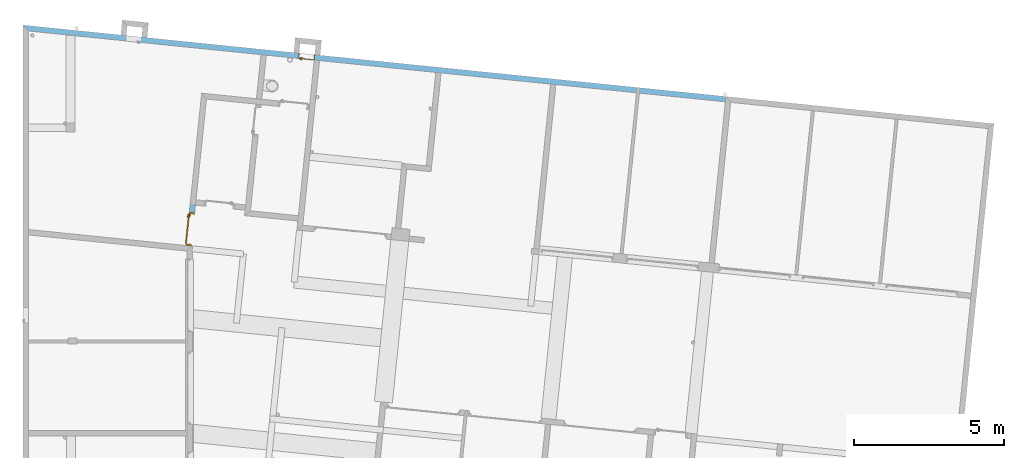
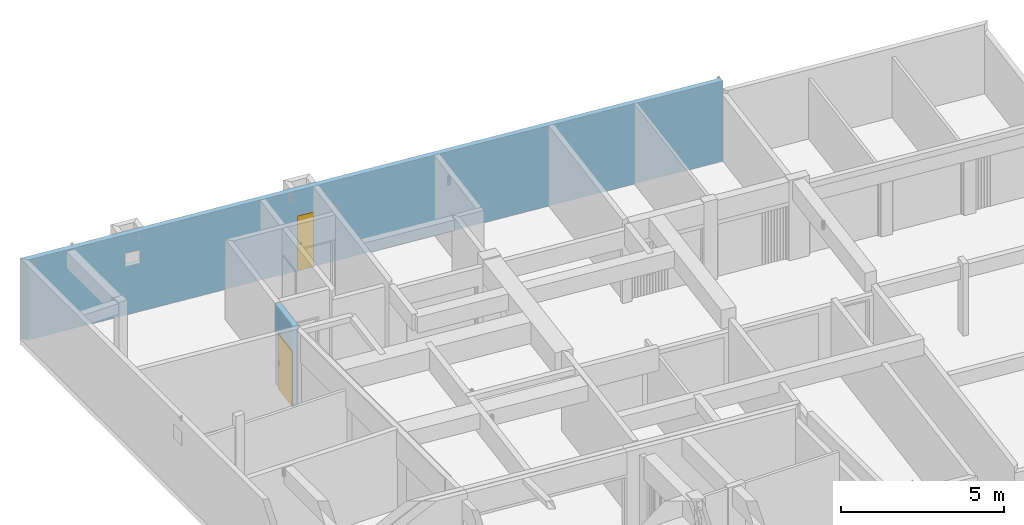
# One storey, part 34 of 41: 2 doors, 3 openings, plus 2 elements that do not belong to this part.
"""IFC2X3 building model written with IfcOpenShell, lengths in millimetres."""

from ifc_helpers import new_model, entity, si_unit, converted_unit, derived_unit, money_unit, direction, frame, origin_with_axes, origin_2d_with_axis, place, context, subcontext, project, spatial, polyline, rectangle, outline, extrude, faceted_brep, material, layer, layer_set, layer_usage, type_object, element, fill, save


model = new_model("IFC2X3")

# Units and contexts
model_context = context("Model", 3, precision=0.01, world=origin_with_axes(), true_north=direction((0.0, 1.0)))
body_context = subcontext(model_context, "Body", "Model", "MODEL_VIEW")
ifc_project = project(units=[si_unit("LENGTHUNIT", "METRE", prefix="MILLI"), si_unit("AREAUNIT", "SQUARE_METRE"), si_unit("VOLUMEUNIT", "CUBIC_METRE"), converted_unit("PLANEANGLEUNIT", "DEGREE", entity("IfcPlaneAngleMeasure", 0.0174532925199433), si_unit("PLANEANGLEUNIT", "RADIAN"), dimensions=[0, 0, 0, 0, 0, 0, 0]), money_unit("USD"), converted_unit("TIMEUNIT", "Year", entity("IfcTimeMeasure", 31557600.0), si_unit("TIMEUNIT", "SECOND"), dimensions=[0, 0, 1, 0, 0, 0, 0]), si_unit("MASSUNIT", "GRAM", prefix="KILO"), si_unit("THERMODYNAMICTEMPERATUREUNIT", "DEGREE_CELSIUS"), si_unit("LUMINOUSINTENSITYUNIT", "LUMEN"), si_unit("ENERGYUNIT", "JOULE", prefix="MEGA"), derived_unit("THERMALCONDUCTANCEUNIT", [(si_unit("POWERUNIT", "WATT"), 1), (si_unit("LENGTHUNIT", "METRE"), -1), (si_unit("THERMODYNAMICTEMPERATUREUNIT", "KELVIN"), -1)]), derived_unit("SPECIFICHEATCAPACITYUNIT", [(si_unit("ENERGYUNIT", "JOULE"), 1), (si_unit("MASSUNIT", "GRAM", prefix="KILO"), -1), (si_unit("THERMODYNAMICTEMPERATUREUNIT", "KELVIN"), -1)]), derived_unit("MASSDENSITYUNIT", [(si_unit("MASSUNIT", "GRAM", prefix="KILO"), 1), (si_unit("VOLUMEUNIT", "CUBIC_METRE"), -1)])], contexts=[model_context])

# Site, building, storey
site_placement = place(None, origin_with_axes())
site = spatial("IfcSite", under=ifc_project, at=site_placement, Name="Site", CompositionType="ELEMENT")
building_placement = place(site_placement, origin_with_axes())
building = spatial("IfcBuilding", under=site, at=building_placement, Name="Bâtiment", CompositionType="ELEMENT")
storey_placement = place(building_placement, origin_with_axes())
storey = spatial("IfcBuildingStorey", under=building, at=storey_placement, Name="sousol", CompositionType="ELEMENT", Elevation=0.0)

# Wall, opening, door
ifc_material = material(Name="Parpaing 314940890")
ifc_layer = layer(ifc_material, 180.0, ventilated="UNKNOWN")
ifc_layer_set = layer_set([ifc_layer], Name="Beton  18 0170347028")
ifc_layer_usage_1 = layer_usage(ifc_layer_set, "AXIS2", "NEGATIVE", 0.0)
wall_type = type_object("IfcWallType", Name="Beton  18 0170347028 180", PredefinedType="NOTDEFINED")
wall_1_placement = place(storey_placement, frame((2222367.43851721, -609832.9632712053, 0.0), z_axis=(0.0, 0.0, 1.0), x_axis=(-0.1011723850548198, -0.9948689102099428, 0.0)))
wall_1 = element("IfcWallStandardCase", 1, at=wall_1_placement, inside=storey, type_object=wall_type, material=ifc_layer_usage_1, Name="Mur-133", context=body_context, shape_type="SweptSolid", body=[
    extrude(outline(polyline([(-0.2228051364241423, -180.0000000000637), (1365.680942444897, -180.0000000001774), (1365.668428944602, 0.0), (0.0, 0.0), (-0.2228051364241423, -180.0000000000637)])), origin_with_axes(), (0.0, 0.0, 1.0), 3000.0),
])
opening_1_placement = place(wall_1_placement, frame((806.7165681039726, -3.410605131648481e-10, 0.0), z_axis=(0.0, 0.0, 1.0), x_axis=(1.0, 0.0, 0.0)))
opening_1 = element("IfcOpeningElement", 2, at=opening_1_placement, cuts=wall_1, Name="Por-295", context=body_context, shape_type="SweptSolid", body=[
    extrude(rectangle(XDim=1109.999992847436, YDim=2080.0, at=origin_2d_with_axis()), frame((-3.576268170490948e-06, 179.99999999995, 1040.0), z_axis=(0.0, 1.0, 0.0), x_axis=(1.0, 0.0, 0.0)), (0.0, 0.0, -1.0), 360.0),
])
door_style = type_object("IfcDoorStyle", Name="Porte_1v", ConstructionType="NOTDEFINED", OperationType="NOTDEFINED", ParameterTakesPrecedence=False, Sizeable=False)
door_1_placement = place(opening_1_placement, frame((514.9999999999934, -1.13686837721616e-10, 0.0), z_axis=(0.0, 0.0, 1.0), x_axis=(-1.0, 0.0, 0.0)))
door_1 = element("IfcDoor", 3, at=door_1_placement, inside=storey, type_object=door_style, Name="Por-295", OverallHeight=2040.0, OverallWidth=1030.0, context=body_context, shape_type="Brep", body=[
    faceted_brep([(-40.00000000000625, 180.0000000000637, 0.0), (-40.00000000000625, 180.0000000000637, 2080.0), (1070.000000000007, 179.99999999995, 2080.0), (1070.000000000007, 179.99999999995, 0.0), (1030.000000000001, 180.0000000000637, 0.0), (1030.000000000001, 180.0000000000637, 2040.0), (0.0, 179.99999999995, 2040.0), (0.0, 179.99999999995, 0.0), (-39.99999999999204, 0.0, 0.0), (-39.99999999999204, 0.0, 2080.0), (1069.999999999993, 0.0, 2080.0), (1069.999999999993, 0.0, 0.0), (1015.000000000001, 0.0, 0.0), (1015.000000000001, 164.9999999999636, 0.0), (1029.999999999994, 165.0000000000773, 0.0), (1029.999999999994, 165.0000000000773, 2040.0), (0.0, 164.9999999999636, 2040.0), (0.0, 164.9999999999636, 0.0), (14.99999999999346, 165.0000000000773, 0.0), (15.00000000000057, 0.0, 0.0), (15.00000000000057, 0.0, 2025.0), (1015.000000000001, 0.0, 2025.0), (1015.000000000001, 164.9999999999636, 2025.0), (14.99999999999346, 165.0000000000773, 2025.0)], [[[0, 1, 2, 3, 4, 5, 6, 7]], [[8, 9, 1, 0]], [[9, 10, 2, 1]], [[10, 11, 3, 2]], [[3, 11, 12, 13, 14, 4]], [[5, 4, 14, 15]], [[6, 5, 15, 16]], [[7, 6, 16, 17]], [[0, 7, 17, 18, 19, 8]], [[19, 20, 21, 12, 11, 10, 9, 8]], [[22, 13, 12, 21]], [[17, 16, 15, 14, 13, 22, 23, 18]], [[18, 23, 20, 19]], [[23, 22, 21, 20]]]),
    faceted_brep([(964.9999999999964, 164.9999999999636, 900.0), (964.9999999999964, 164.9999999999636, 1100.0), (1005.00000000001, 164.9999999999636, 1100.0), (1005.00000000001, 164.9999999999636, 900.0), (965.0000000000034, 155.0000000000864, 900.0), (965.0000000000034, 155.0000000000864, 1100.0), (1005.000000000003, 155.0000000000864, 1100.0), (1005.000000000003, 155.0000000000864, 900.0)], [[[0, 1, 2, 3]], [[0, 4, 5, 1]], [[1, 5, 6, 2]], [[2, 6, 7, 3]], [[3, 7, 4, 0]], [[7, 6, 5, 4]]]),
    faceted_brep([(895.0000000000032, 154.9999999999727, 1000.0), (895.0000000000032, 154.9999999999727, 1020.0), (995.0000000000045, 155.0000000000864, 1020.0), (995.0000000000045, 155.0000000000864, 1000.0), (894.999999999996, 134.9999999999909, 1000.0), (894.999999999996, 134.9999999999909, 1020.0), (994.9999999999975, 134.9999999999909, 1020.0), (994.9999999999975, 134.9999999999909, 1000.0)], [[[0, 1, 2, 3]], [[0, 4, 5, 1]], [[1, 5, 6, 2]], [[2, 6, 7, 3]], [[3, 7, 4, 0]], [[7, 6, 5, 4]]]),
    faceted_brep([(965.0000000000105, 214.9999999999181, 900.0), (965.0000000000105, 214.9999999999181, 1100.0), (1004.999999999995, 215.0000000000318, 1100.0), (1004.999999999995, 215.0000000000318, 900.0), (965.0000000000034, 205.0000000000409, 900.0), (965.0000000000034, 205.0000000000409, 1100.0), (1005.000000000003, 205.0000000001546, 1100.0), (1005.000000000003, 205.0000000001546, 900.0)], [[[0, 1, 2, 3]], [[0, 4, 5, 1]], [[1, 5, 6, 2]], [[2, 6, 7, 3]], [[3, 7, 4, 0]], [[7, 6, 5, 4]]]),
    faceted_brep([(895.0000000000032, 235.0000000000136, 1000.0), (895.0000000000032, 235.0000000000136, 1020.0), (995.0000000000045, 235.0000000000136, 1020.0), (995.0000000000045, 235.0000000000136, 1000.0), (895.0000000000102, 215.0000000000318, 1000.0), (895.0000000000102, 215.0000000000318, 1020.0), (995.0000000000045, 215.0000000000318, 1020.0), (995.0000000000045, 215.0000000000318, 1000.0)], [[[0, 1, 2, 3]], [[0, 4, 5, 1]], [[1, 5, 6, 2]], [[2, 6, 7, 3]], [[3, 7, 4, 0]], [[7, 6, 5, 4]]]),
    faceted_brep([(1029.999999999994, 205.0000000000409, 0.0), (1029.999999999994, 165.0000000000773, 0.0), (0.0, 164.9999999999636, 0.0), (0.0, 204.9999999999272, 0.0), (1029.999999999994, 205.0000000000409, 2040.0), (1029.999999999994, 165.0000000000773, 2040.0), (0.0, 164.9999999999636, 2040.0), (0.0, 204.9999999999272, 2040.0)], [[[0, 1, 2, 3]], [[4, 5, 1, 0]], [[1, 5, 6, 2]], [[3, 2, 6, 7]], [[0, 3, 7, 4]], [[7, 6, 5, 4]]]),
])
fill(opening_1, door_1)

# Wall, openings, door
ifc_layer_usage_2 = layer_usage(ifc_layer_set, "AXIS2", "POSITIVE", 0.0)
wall_2_placement = place(storey_placement, frame((2240182.946874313, -606236.1516955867, 0.0), z_axis=(0.0, 0.0, 1.0), x_axis=(-0.9948759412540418, 0.1011032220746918, 0.0)))
wall_2 = element("IfcWallStandardCase", 4, at=wall_2_placement, inside=storey, type_object=wall_type, material=ifc_layer_usage_2, Name="Mur-132", context=body_context, shape_type="SweptSolid", body=[
    extrude(outline(polyline([(179.9999999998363, 0.0), (23669.99999999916, 0.0), (23470.78060815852, 180.0000000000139), (179.99999999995, 179.9999999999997), (179.9999999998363, 0.0)])), origin_with_axes(), (0.0, 0.0, 1.0), 3000.0),
])
opening_2_placement = place(wall_2_placement, frame((19961.65888248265, 0.0, 1800.000000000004), z_axis=(0.0, 0.0, 1.0), x_axis=(1.0, 0.0, 0.0)))
element("IfcOpeningElement", 5, at=opening_2_placement, cuts=wall_2, Name="Por-276", context=body_context, shape_type="SweptSolid", body=[
    extrude(rectangle(XDim=519.9999999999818, YDim=509.9999988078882, at=origin_2d_with_axis()), frame((0.0, -180.0000000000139, 255.000000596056), z_axis=(0.0, 1.0, 0.0), x_axis=(1.0, 0.0, 0.0)), (0.0, 0.0, 1.0), 360.0),
])
opening_3_placement = place(wall_2_placement, frame((14182.65292563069, 0.0, 0.0), z_axis=(0.0, 0.0, 1.0), x_axis=(1.0, 0.0, 0.0)))
opening_3 = element("IfcOpeningElement", 6, at=opening_3_placement, cuts=wall_2, Name="Por-276", context=body_context, shape_type="SweptSolid", body=[
    extrude(rectangle(XDim=536.1215481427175, YDim=2050.0, at=origin_2d_with_axis()), frame((-5.055881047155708e-06, -179.9999999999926, 1025.0), z_axis=(0.0, -1.0, 0.0), x_axis=(-1.0, 0.0, 0.0)), (0.0, 0.0, -1.0), 360.0),
])
door_2_placement = place(opening_3_placement, frame((-258.0607690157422, 0.0, 0.0), z_axis=(0.0, 0.0, 1.0), x_axis=(1.0, 0.0, 0.0)))
door_2 = element("IfcDoor", 7, at=door_2_placement, inside=storey, type_object=door_style, Name="Por-276", OverallHeight=2040.0, OverallWidth=516.122, context=body_context, shape_type="Brep", body=[
    faceted_brep([(-9.999999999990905, 180.0000000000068, 0.0), (-9.999999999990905, 180.0000000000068, 2050.0), (526.1215380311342, 180.0000000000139, 2050.0), (526.1215380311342, 180.0000000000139, 0.0), (516.1215380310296, 180.0000000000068, 0.0), (516.1215380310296, 180.0000000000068, 2040.0), (0.0, 180.0000000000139, 2040.0), (0.0, 180.0000000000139, 0.0), (-9.999999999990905, 0.0, 0.0), (-9.999999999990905, 0.0, 2050.0), (526.1215380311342, 0.0, 2050.0), (526.1215380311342, 0.0, 0.0), (506.1215380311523, 0.0, 0.0), (506.1215380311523, 165.0000000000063, 0.0), (516.1215380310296, 165.0000000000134, 0.0), (516.1215380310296, 165.0000000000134, 2040.0), (0.0, 165.0000000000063, 2040.0), (0.0, 165.0000000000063, 0.0), (9.999999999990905, 165.0000000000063, 0.0), (9.999999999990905, 0.0, 0.0), (9.999999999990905, 0.0, 2030.0), (506.1215380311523, 0.0, 2030.0), (506.1215380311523, 165.0000000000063, 2030.0), (9.999999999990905, 165.0000000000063, 2030.0)], [[[0, 1, 2, 3, 4, 5, 6, 7]], [[8, 9, 1, 0]], [[9, 10, 2, 1]], [[10, 11, 3, 2]], [[3, 11, 12, 13, 14, 4]], [[5, 4, 14, 15]], [[6, 5, 15, 16]], [[7, 6, 16, 17]], [[0, 7, 17, 18, 19, 8]], [[19, 20, 21, 12, 11, 10, 9, 8]], [[22, 13, 12, 21]], [[17, 16, 15, 14, 13, 22, 23, 18]], [[18, 23, 20, 19]], [[23, 22, 21, 20]]]),
    faceted_brep([(451.121538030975, 165.0000000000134, 900.0), (451.121538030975, 165.0000000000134, 1100.0), (491.121538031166, 165.0000000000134, 1100.0), (491.121538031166, 165.0000000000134, 900.0), (451.1215380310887, 155.0000000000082, 900.0), (451.1215380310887, 155.0000000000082, 1100.0), (491.1215380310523, 155.0000000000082, 1100.0), (491.1215380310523, 155.0000000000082, 900.0)], [[[0, 1, 2, 3]], [[0, 4, 5, 1]], [[1, 5, 6, 2]], [[2, 6, 7, 3]], [[3, 7, 4, 0]], [[7, 6, 5, 4]]]),
    faceted_brep([(381.1215380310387, 155.0000000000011, 1000.0), (381.1215380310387, 155.0000000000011, 1020.0), (481.1215380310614, 155.0000000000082, 1020.0), (481.1215380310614, 155.0000000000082, 1000.0), (381.1215380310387, 135.0000000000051, 1000.0), (381.1215380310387, 135.0000000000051, 1020.0), (481.1215380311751, 135.0000000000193, 1020.0), (481.1215380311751, 135.0000000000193, 1000.0)], [[[0, 1, 2, 3]], [[0, 4, 5, 1]], [[1, 5, 6, 2]], [[2, 6, 7, 3]], [[3, 7, 4, 0]], [[7, 6, 5, 4]]]),
    faceted_brep([(451.1215380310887, 195.0000000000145, 900.0), (451.1215380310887, 195.0000000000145, 1100.0), (491.1215380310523, 195.0000000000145, 1100.0), (491.1215380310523, 195.0000000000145, 900.0), (451.1215380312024, 185.0000000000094, 900.0), (451.1215380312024, 185.0000000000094, 1100.0), (491.1215380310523, 185.0000000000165, 1100.0), (491.1215380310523, 185.0000000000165, 900.0)], [[[0, 1, 2, 3]], [[0, 4, 5, 1]], [[1, 5, 6, 2]], [[2, 6, 7, 3]], [[3, 7, 4, 0]], [[7, 6, 5, 4]]]),
    faceted_brep([(381.1215380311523, 215.0000000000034, 1000.0), (381.1215380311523, 215.0000000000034, 1020.0), (481.1215380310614, 215.0000000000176, 1020.0), (481.1215380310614, 215.0000000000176, 1000.0), (381.1215380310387, 195.0000000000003, 1000.0), (381.1215380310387, 195.0000000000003, 1020.0), (481.1215380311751, 195.0000000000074, 1020.0), (481.1215380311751, 195.0000000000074, 1000.0)], [[[0, 1, 2, 3]], [[0, 4, 5, 1]], [[1, 5, 6, 2]], [[2, 6, 7, 3]], [[3, 7, 4, 0]], [[7, 6, 5, 4]]]),
    faceted_brep([(516.1215380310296, 185.0000000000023, 0.0), (516.1215380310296, 165.0000000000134, 0.0), (0.0, 165.0000000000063, 0.0), (0.0, 185.0000000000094, 0.0), (516.1215380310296, 185.0000000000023, 2040.0), (516.1215380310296, 165.0000000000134, 2040.0), (0.0, 165.0000000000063, 2040.0), (0.0, 185.0000000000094, 2040.0)], [[[0, 1, 2, 3]], [[4, 5, 1, 0]], [[1, 5, 6, 2]], [[3, 2, 6, 7]], [[0, 3, 7, 4]], [[7, 6, 5, 4]]]),
])
fill(opening_3, door_2)

save(model, "model.ifc")
